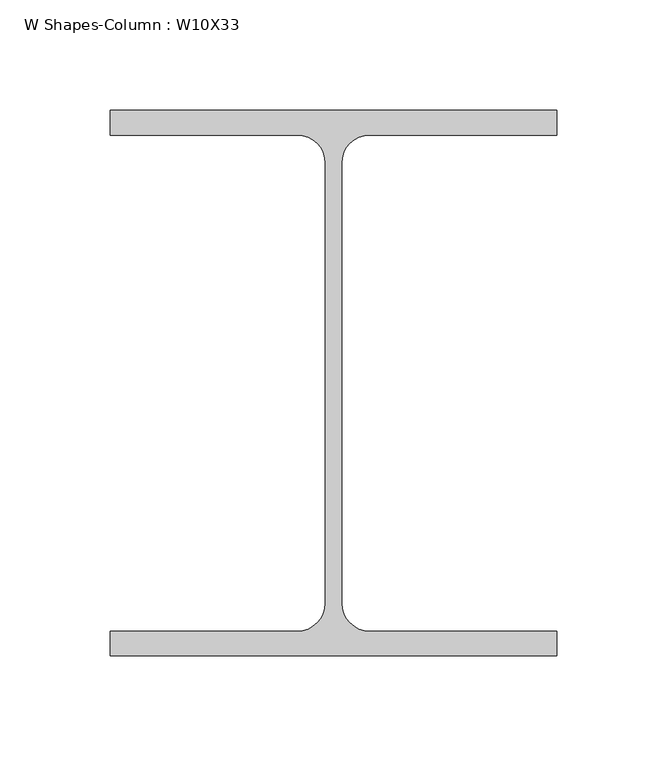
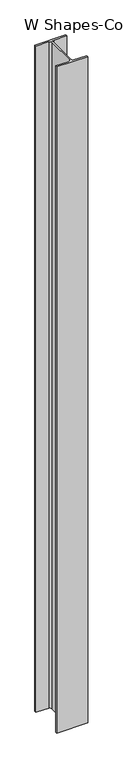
"""IFC4 building model written with IfcOpenShell, lengths in millimetres: column geometry, W Shapes-Column : W10X33."""

from ifc_helpers import new_model, si_unit, point, frame, frame_2d, origin, place, context, project, spatial, polyline, circle_curve, trimmed, segment, composite_curve, outline, extrude, source, transform, mapped, element, save


def w_shapes_column_w10x33_8af9b308(model_context):
    return source(origin(), model_context, "Body", "SweptSolid", [
        extrude(outline(composite_curve([segment(polyline([(101.092, 123.571), (101.092, 112.395), (16.383, 112.395)]), True, "CONTINUOUS"), segment(trimmed(circle_curve(frame_2d((16.383, 99.695)), 12.7), [point((16.383, 112.395))], [point((3.683, 99.695))], True, "CARTESIAN"), True, "CONTINUOUS"), segment(polyline([(3.683, 99.695), (3.683, -99.695)]), True, "CONTINUOUS"), segment(trimmed(circle_curve(frame_2d((16.383, -99.695)), 12.7), [point((3.683, -99.695))], [point((16.383, -112.395))], True, "CARTESIAN"), True, "CONTINUOUS"), segment(polyline([(16.383, -112.395), (101.092, -112.395), (101.092, -123.571), (-101.092, -123.571), (-101.092, -112.395), (-16.383, -112.395)]), True, "CONTINUOUS"), segment(trimmed(circle_curve(frame_2d((-16.383, -99.695)), 12.7), [point((-16.383, -112.395))], [point((-3.683, -99.695))], True, "CARTESIAN"), True, "CONTINUOUS"), segment(polyline([(-3.683, -99.695), (-3.683, 99.695)]), True, "CONTINUOUS"), segment(trimmed(circle_curve(frame_2d((-16.383, 99.695)), 12.7), [point((-3.683, 99.695))], [point((-16.383, 112.395))], True, "CARTESIAN"), True, "CONTINUOUS"), segment(polyline([(-16.383, 112.395), (-101.092, 112.395), (-101.092, 123.571), (101.092, 123.571)]), True, "CONTINUOUS")], self_intersect=False)), frame((0.0, 0.0, -1676.4), z_axis=(0.0, 0.0, 1.0), x_axis=(1.0, 0.0, 0.0)), (0.0, 0.0, 1.0), 4597.4),
    ])


if __name__ == "__main__":
    model = new_model("IFC4")
    model_context = context("Model", 3, world=origin())
    ifc_project = project(units=[si_unit("LENGTHUNIT", "METRE", prefix="MILLI")], contexts=[model_context])
    site = spatial("IfcSite", under=ifc_project)
    building = spatial("IfcBuilding", under=site)
    placement = place(None, origin())
    w_shapes_column_w10x33_shape = w_shapes_column_w10x33_8af9b308(model_context)
    element("IfcColumn", 1, ObjectType="W Shapes-Column : W10X33", at=placement, inside=building, context=model_context, shape_type="MappedRepresentation", body=[
        mapped(w_shapes_column_w10x33_shape, transform((0.0, 0.0, 0.0), x_axis=(1.0, 0.0, 0.0), y_axis=(0.0, 1.0, 0.0), z_axis=(0.0, 0.0, 1.0))),
    ])
    save(model, "model.ifc")
